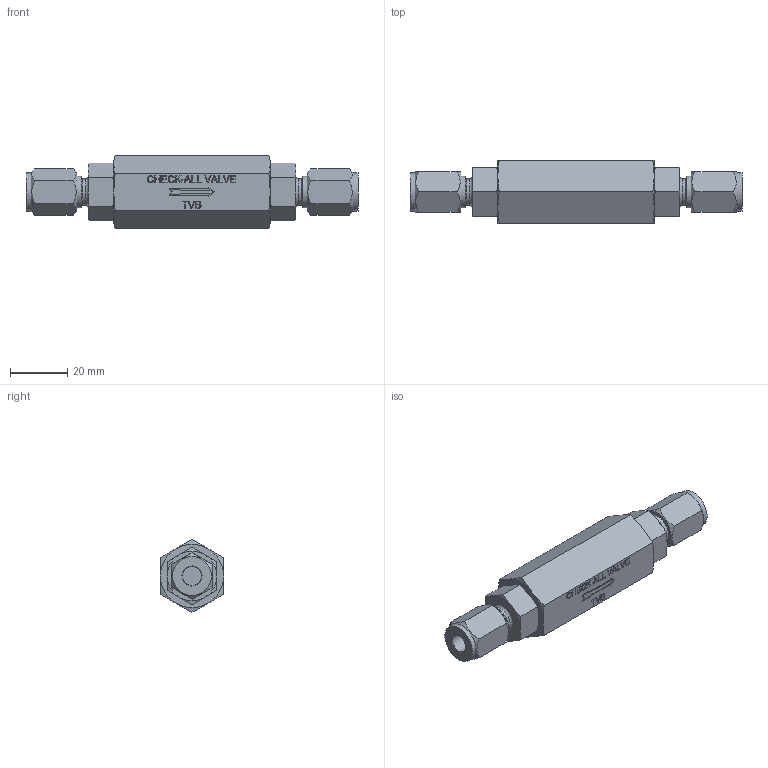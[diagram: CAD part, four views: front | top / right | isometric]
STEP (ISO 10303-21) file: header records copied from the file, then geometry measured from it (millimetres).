
FILE_DESCRIPTION( ( 'Unknown' ), '1' );
FILE_NAME( 'Y:/ENGR/3D Solid Edge Models/TV/stp/TVB.stp', 'Unknown', ( 'Unknown' ), ( 'Unknown' ), 'PSStep 16.0.42', 'Unknown', ' ' );
FILE_SCHEMA( ( 'AUTOMOTIVE_DESIGN { 1 0 10303 214 1 1 1 1 }' ) );
Length unit declared in the file: millimetre
Products named in the file (1): 1
Bounding box: 116.33 x 22.23 x 25.66 mm (x, y, z)
Volume: 33768.9 mm3; surface area: 9218.6 mm2
Topology: 1 solids, 1 shells, 277 faces, 690 edges, 446 vertices
Faces by surface type: plane 205, cone 44, extrusion 16, cylinder 8, torus 2, bspline 2
Full cylindrical faces by diameter (mm): 6.528 x2, 9.246 x2, 11.113 x2, 13.64 x2
Entity records: 12307 total; most frequent: CARTESIAN_POINT 2789, ORIENTED_EDGE 1328, DIRECTION 1096, EDGE_CURVE 664, PRESENTATION_STYLE_ASSIGNMENT 550, COLOUR_RGB 550, VECTOR 460, LINE 444
